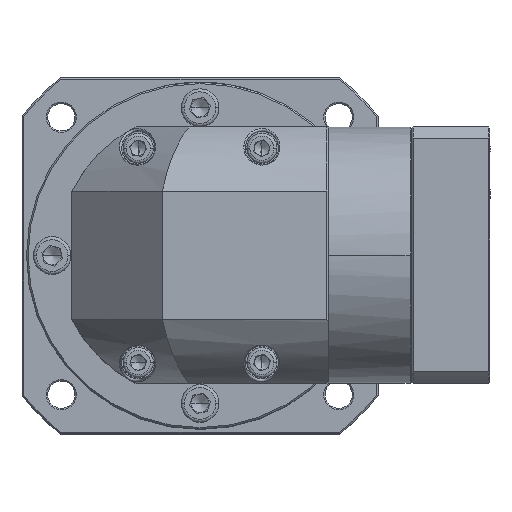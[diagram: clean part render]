
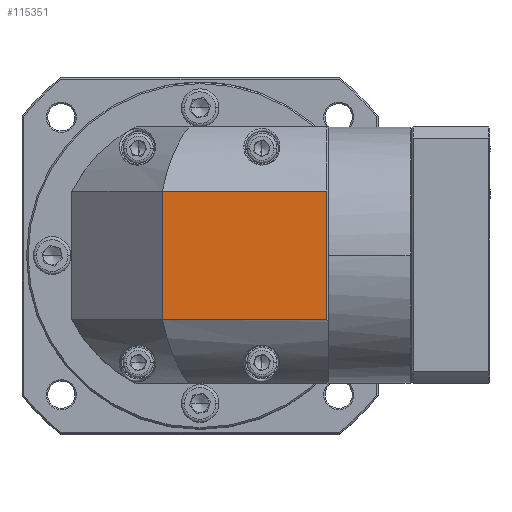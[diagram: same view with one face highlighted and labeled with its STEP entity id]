
A CAD part, top view. The second image highlights one B-rep face of the part: STEP entity #115351.
In plain terms, the highlighted planar face has unit normal (0, 0, 1).
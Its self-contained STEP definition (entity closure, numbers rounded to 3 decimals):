
#6527 = VERTEX_POINT ( 'NONE', #114011 ) ;
#7324 = CARTESIAN_POINT ( 'NONE',  ( 88.177, 105.218, 60.595 ) ) ;
#11680 = CARTESIAN_POINT ( 'NONE',  ( 88.177, 126.431, 60.595 ) ) ;
#13452 = VERTEX_POINT ( 'NONE', #135066 ) ;
#13530 = ORIENTED_EDGE ( 'NONE', *, *, #130066, .F. ) ;
#14047 = CARTESIAN_POINT ( 'NONE',  ( -11.823, 84.004, 60.595 ) ) ;
#19001 = ORIENTED_EDGE ( 'NONE', *, *, #90214, .T. ) ;
#21743 = EDGE_CURVE ( 'NONE', #127243, #78219, #38275, .T. ) ;
#26780 = CARTESIAN_POINT ( 'NONE',  ( 46.177, 105.218, 60.595 ) ) ;
#26904 = LINE ( 'NONE', #126100, #48916 ) ;
#27182 = DIRECTION ( 'NONE',  ( 0., 1., 0. ) ) ;
#31598 = CARTESIAN_POINT ( 'NONE',  ( 33.677, 126.431, 60.595 ) ) ;
#33772 = EDGE_CURVE ( 'NONE', #13452, #127243, #26904, .T. ) ;
#36358 = EDGE_LOOP ( 'NONE', ( #74233, #38893, #13530, #19001 ) ) ;
#37631 = VECTOR ( 'NONE', #27182, 1000. ) ;
#38275 = LINE ( 'NONE', #44686, #138384 ) ;
#38893 = ORIENTED_EDGE ( 'NONE', *, *, #33772, .F. ) ;
#44686 = CARTESIAN_POINT ( 'NONE',  ( -11.823, 126.431, 60.595 ) ) ;
#48555 = PLANE ( 'NONE',  #67266 ) ;
#48916 = VECTOR ( 'NONE', #136515, 1000. ) ;
#57108 = FACE_OUTER_BOUND ( 'NONE', #36358, .T. ) ;
#65057 = DIRECTION ( 'NONE',  ( 1., 0., 0. ) ) ;
#67266 = AXIS2_PLACEMENT_3D ( 'NONE', #26780, #70348, #70826 ) ;
#70348 = DIRECTION ( 'NONE',  ( 0., 0., 1. ) ) ;
#70826 = DIRECTION ( 'NONE',  ( 1., 0., 0. ) ) ;
#74233 = ORIENTED_EDGE ( 'NONE', *, *, #21743, .F. ) ;
#78219 = VERTEX_POINT ( 'NONE', #11680 ) ;
#78325 = LINE ( 'NONE', #7324, #37631 ) ;
#90214 = EDGE_CURVE ( 'NONE', #6527, #78219, #78325, .T. ) ;
#92671 = DIRECTION ( 'NONE',  ( -1., 0., 0. ) ) ;
#109624 = VECTOR ( 'NONE', #92671, 1000. ) ;
#114011 = CARTESIAN_POINT ( 'NONE',  ( 88.177, 84.004, 60.595 ) ) ;
#115351 = ADVANCED_FACE ( 'NONE', ( #57108 ), #48555, .T. ) ;
#126100 = CARTESIAN_POINT ( 'NONE',  ( 33.677, 105.218, 60.595 ) ) ;
#127243 = VERTEX_POINT ( 'NONE', #31598 ) ;
#130066 = EDGE_CURVE ( 'NONE', #6527, #13452, #138446, .T. ) ;
#135066 = CARTESIAN_POINT ( 'NONE',  ( 33.677, 84.004, 60.595 ) ) ;
#136515 = DIRECTION ( 'NONE',  ( 0., 1., 0. ) ) ;
#138384 = VECTOR ( 'NONE', #65057, 1000. ) ;
#138446 = LINE ( 'NONE', #14047, #109624 ) ;
